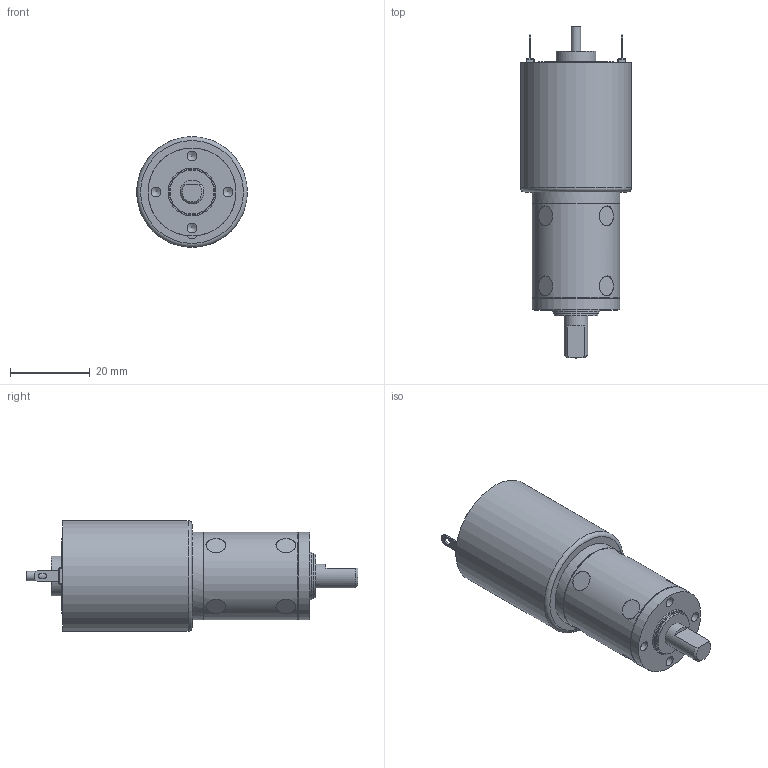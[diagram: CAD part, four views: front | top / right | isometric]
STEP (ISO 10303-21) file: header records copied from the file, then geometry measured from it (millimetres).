
FILE_DESCRIPTION((''),'2;1');
FILE_NAME('C:\Documents and Settings\SSEGAWA\デスクトップ\TP-2732D-KP-3.STP','2013-08-01T11:18:42',('SSEGAWA'),(''),'Autodesk Inventor 2010','Autodesk Inventor 2010','');
FILE_SCHEMA(('CONFIG_CONTROL_DESIGN'));
Length unit declared in the file: millimetre
Products named in the file (1): tp_2732def_kp_3_Shrinkwrap_1
Bounding box: 27.7 x 83 x 27.7 mm (x, y, z)
Volume: 31116.1 mm3; surface area: 6906 mm2
Topology: 1 solids, 3 shells, 160 faces, 346 edges, 224 vertices
Faces by surface type: plane 91, cylinder 36, bspline 29, torus 3, cone 1
Full cylindrical faces by diameter (mm): 2 x2, 2.305 x1, 2.5 x5, 5 x4, 6 x1, 9 x1, 10 x1, 11 x1, 11.5 x1, 12 x1, 19 x1, 21.6 x2, 22 x3, 26.7 x1, 27.7 x1
Entity records: 4631 total; most frequent: CARTESIAN_POINT 1275, DIRECTION 632, ORIENTED_EDGE 568, EDGE_CURVE 284, EDGE_LOOP 241, AXIS2_PLACEMENT_3D 234, VERTEX_POINT 207, VECTOR 164
